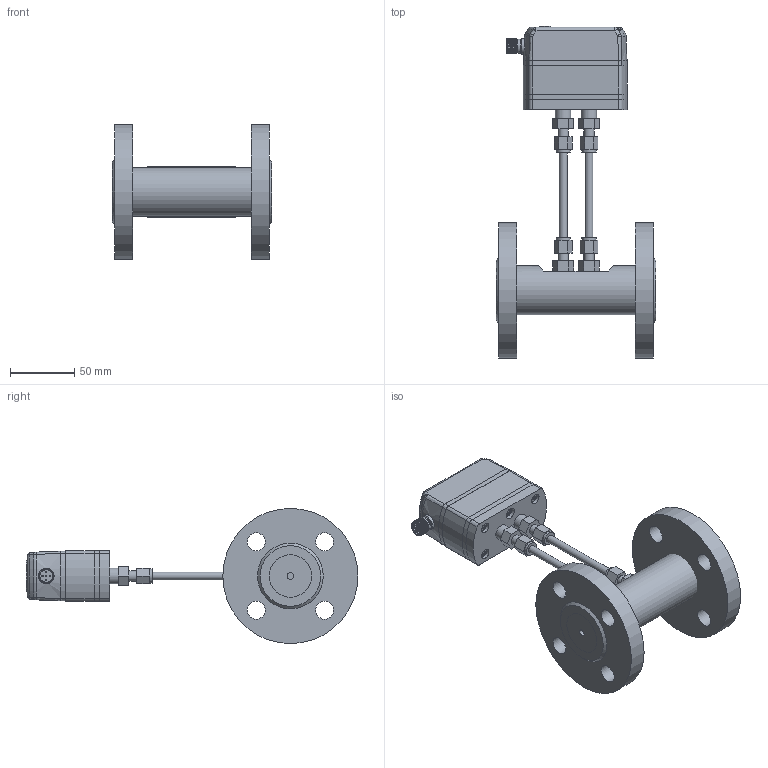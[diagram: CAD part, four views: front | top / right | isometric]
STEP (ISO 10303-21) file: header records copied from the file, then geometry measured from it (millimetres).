
FILE_DESCRIPTION( (''), '2;1');
FILE_NAME( 'QEKH_DN20_flange_capillary.step', '2025-04-29T16:05:19+08:00', (''), (''), '', '', '');
FILE_SCHEMA (('AUTOMOTIVE_DESIGN { 1 0 10303 214 3 1 1 1 }'));
Length unit declared in the file: millimetre
Products named in the file (1): QEKH DN20_flange_capillary
Bounding box: 124 x 257.9 x 105 mm (x, y, z)
Volume: 546537.3 mm3; surface area: 148006.5 mm2
Topology: 32 solids, 35 shells, 1607 faces, 3955 edges, 2539 vertices
Faces by surface type: plane 811, cylinder 304, extrusion 239, cone 144, torus 52, bspline 48, sphere 9
Full cylindrical faces by diameter (mm): 1 x10, 2.05 x4, 2.6 x4, 2.7 x5, 2.874 x4, 3 x4, 3.1 x1, 3.3 x8, 3.5 x7, 3.838 x6, 4.2 x2, 4.5 x12, 5 x3, 5.5 x10, 6 x6, 7 x6, 8 x8, 9 x2, 9.8 x2, 10.8 x1, 11 x4, 11.5 x2, 11.992 x2, 12 x12, 14 x10, 14.5 x2, 17 x2, 19.1 x6, 33 x4, 38 x1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
Entity records: 52801 total; most frequent: CARTESIAN_POINT 16670, ORIENTED_EDGE 7222, DIRECTION 6635, EDGE_CURVE 3611, VERTEX_POINT 2451, VECTOR 2225, AXIS2_PLACEMENT_3D 2205, EDGE_LOOP 2052
